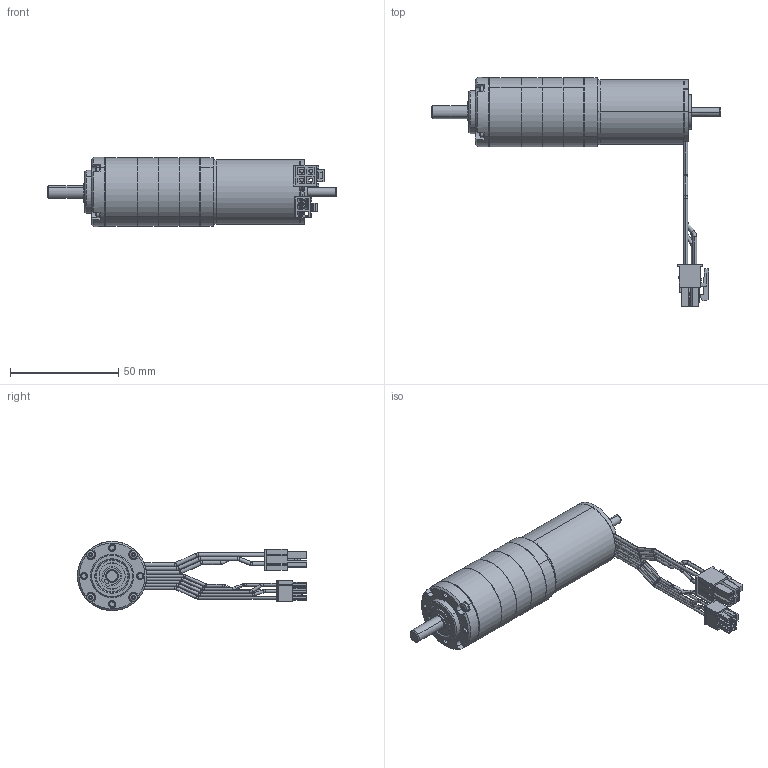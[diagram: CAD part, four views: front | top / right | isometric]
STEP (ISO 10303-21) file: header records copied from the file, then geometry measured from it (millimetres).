
FILE_DESCRIPTION (( 'STEP AP214' ), '1' );
FILE_NAME ('EC-i30+PM32-4 étages.STEP', '2019-11-12T14:48:14', ( '' ), ( '' ), 'SwSTEP 2.0', 'SolidWorks 2018', '' );
FILE_SCHEMA (( 'AUTOMOTIVE_DESIGN' ));
Length unit declared in the file: millimetre
Products named in the file (21): SCHRAUBEN_1232149_2; 8011610_ANLAUFSCHEIBE_G_1ST_2_2; Coté sortie^PM32 pour ECMax30L_2; 1009218_2; GK545_POS23_4_ABTRIEB_LK4_KPL_2_2; D472_15X1_2_2; DIN471_SR_06X00_7_2_2; FLACHKOPFSCHRAUBE_M2X21_PRECOTE_2_2; GK235_POS42_DICHTRING_2_2; EC-i30+PM32-4 étages; 539481_EC-i30_45W_HighTorque; GK235_POS13_LAGERBOLZEN_2_2; D625-619_6-2Z_2_2; Coté moteur^PM32 pour ECMax30L_2; GK545_POS22_ABTRIEB_ROHTEIL_AF0_2_2; PM32 pour ECMax30L_4 etages; 8002481_MOTORRITZEL_Z17_2; DIN998_PS_6X12X0_5_2_2; P8209_8100249_ZAHNKRANZ_2 etages; P8209_8100249_ZAHNKRANZ_1ST_2_2; 8101913_LAGERFLANSCH_2_2
Assembly tree (36 placements, depth 5):
  EC-i30+PM32-4 étages
    PM32 pour ECMax30L_4 etages
      Coté sortie^PM32 pour ECMax30L_2
        8101913_LAGERFLANSCH_2_2
        D472_15X1_2_2
        D625-619_6-2Z_2_2  x2
        DIN998_PS_6X12X0_5_2_2  x2
        GK545_POS23_4_ABTRIEB_LK4_KPL_2_2
          GK545_POS22_ABTRIEB_ROHTEIL_AF0_2_2
          GK235_POS13_LAGERBOLZEN_2_2  x3
        DIN471_SR_06X00_7_2_2
        GK235_POS42_DICHTRING_2_2
        FLACHKOPFSCHRAUBE_M2X21_PRECOTE_2_2  x4
      Coté moteur^PM32 pour ECMax30L_2
        GK235_POS42_DICHTRING_2_2
        8011610_ANLAUFSCHEIBE_G_1ST_2_2
        8002481_MOTORRITZEL_Z17_2
      GK235_POS42_DICHTRING_2_2  x3
      P8209_8100249_ZAHNKRANZ_1ST_2_2
      SCHRAUBEN_1232149_2  x4
      1009218_2
      P8209_8100249_ZAHNKRANZ_2 etages  x3
    539481_EC-i30_45W_HighTorque
Bounding box: 133.6 x 105.86 x 32 mm (x, y, z)
Volume: 23040.6 mm3; surface area: 44821.7 mm2
Topology: 26 solids, 50 shells, 2451 faces, 6727 edges, 4374 vertices
Faces by surface type: cylinder 1046, plane 1045, cone 147, bspline 129, torus 80, sphere 4
Entity records: 77114 total; most frequent: CARTESIAN_POINT 14096, DIRECTION 9520, ORIENTED_EDGE 9516, EDGE_CURVE 4802, AXIS2_PLACEMENT_3D 3320, VERTEX_POINT 3126, LINE 2880, VECTOR 2880
